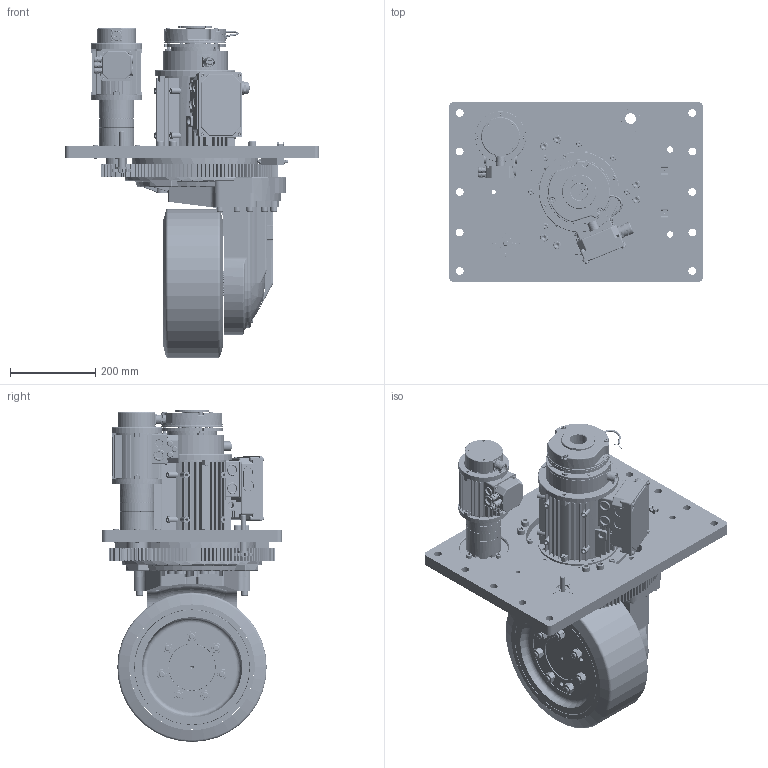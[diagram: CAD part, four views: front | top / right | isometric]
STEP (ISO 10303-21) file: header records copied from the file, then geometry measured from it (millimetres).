
FILE_DESCRIPTION(/* description */ (''),/* implementation_level */ '2;1');
FILE_NAME(/* name */ 'C:\Users\marco bosi\Desktop\WR350FMS-BL-D.152.stp',/* time_stamp */ '2023-09-20T15:36:34+02:00',/* author */ ('marco bosi'),/* organization */ (''),/* preprocessor_version */ 'ST-DEVELOPER v18.1',/* originating_system */ 'Autodesk Inventor 2022',/* authorisation */ '');
FILE_SCHEMA (('AUTOMOTIVE_DESIGN { 1 0 10303 214 3 1 1 }'));
Length unit declared in the file: millimetre
Products named in the file (1): WR350FMS-BL-D.152_Semplifica_1
Bounding box: 595 x 420 x 778 mm (x, y, z)
Volume: 24423135.2 mm3; surface area: 3513094.5 mm2
Topology: 25 solids, 39 shells, 11871 faces, 31775 edges, 20849 vertices
Faces by surface type: plane 7458, cylinder 2806, cone 787, bspline 395, torus 388, sphere 37
Full cylindrical faces by diameter (mm): 0.9 x12, 1 x14, 1.5 x2, 1.7 x2, 2 x3, 2.459 x21, 2.5 x4, 2.75 x2, 2.9 x2, 3.2 x4, 3.242 x7, 4 x6, 4.134 x4, 4.3 x4, 4.5 x12, 4.8 x9, 4.917 x31, 5 x11, 5.5 x4, 6 x13, 6.4 x16, 6.5 x18, 6.6 x9, 6.647 x14, 7 x26, 7.5 x8, 8 x26, 8.376 x6, 8.5 x21, 9 x15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
Entity records: 402764 total; most frequent: CARTESIAN_POINT 93228, ORIENTED_EDGE 63131, DIRECTION 61555, EDGE_CURVE 31587, AXIS2_PLACEMENT_3D 21987, VERTEX_POINT 20849, LINE 17581, VECTOR 17581
